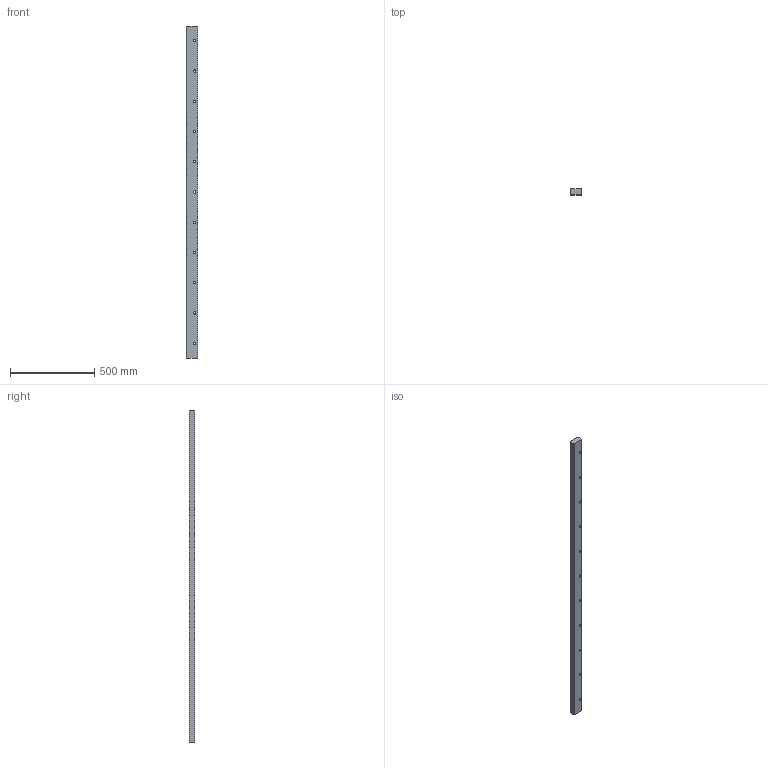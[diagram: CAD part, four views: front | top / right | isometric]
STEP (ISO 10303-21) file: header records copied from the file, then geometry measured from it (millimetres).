
FILE_DESCRIPTION(('STEP AP203'),'1');
FILE_NAME('track_ft6633l1976p3.stp','2022-07-04T01:42:01',('TraceParts'),('TraceParts S.A.'),'Spatial InterOp 3D',' ',' ');
FILE_SCHEMA(('CONFIG_CONTROL_DESIGN'));
Length unit declared in the file: millimetre
Products named in the file (1): 1
Bounding box: 66.4 x 33.4 x 1976 mm (x, y, z)
Volume: 4302058.4 mm3; surface area: 410399.1 mm2
Topology: 1 solids, 1 shells, 65 faces, 156 edges, 104 vertices
Faces by surface type: cylinder 44, plane 21
Entity records: 2026 total; most frequent: DIRECTION 376, CARTESIAN_POINT 326, ORIENTED_EDGE 312, EDGE_CURVE 156, AXIS2_PLACEMENT_3D 154, VERTEX_POINT 104, EDGE_LOOP 98, CIRCLE 88
